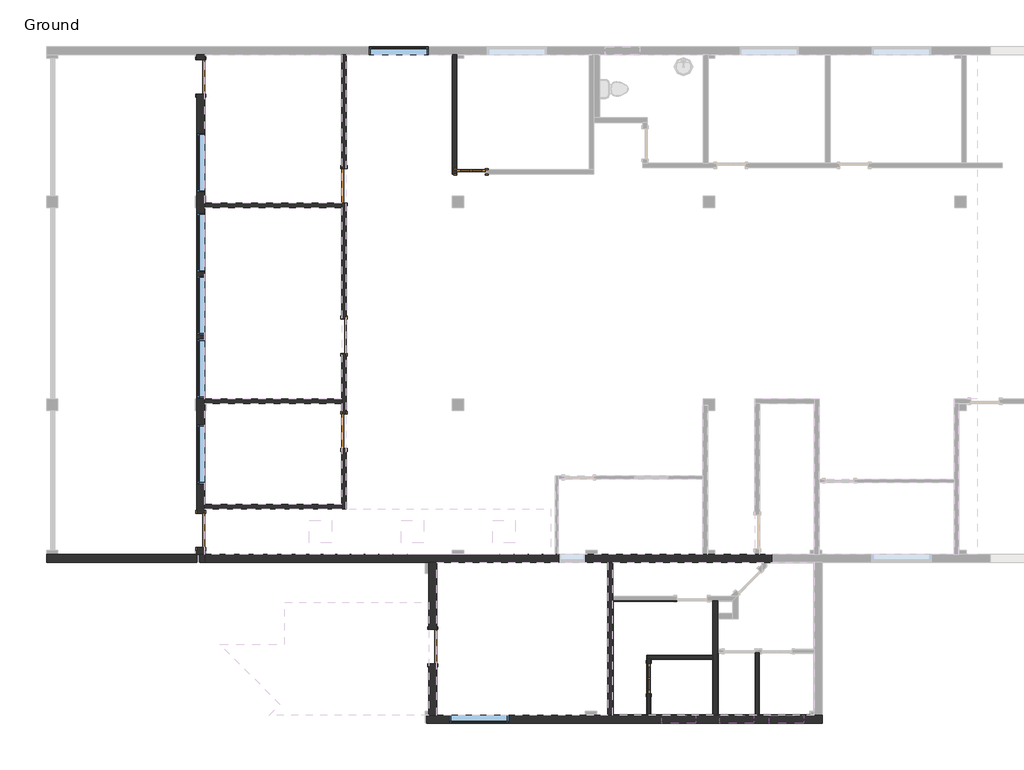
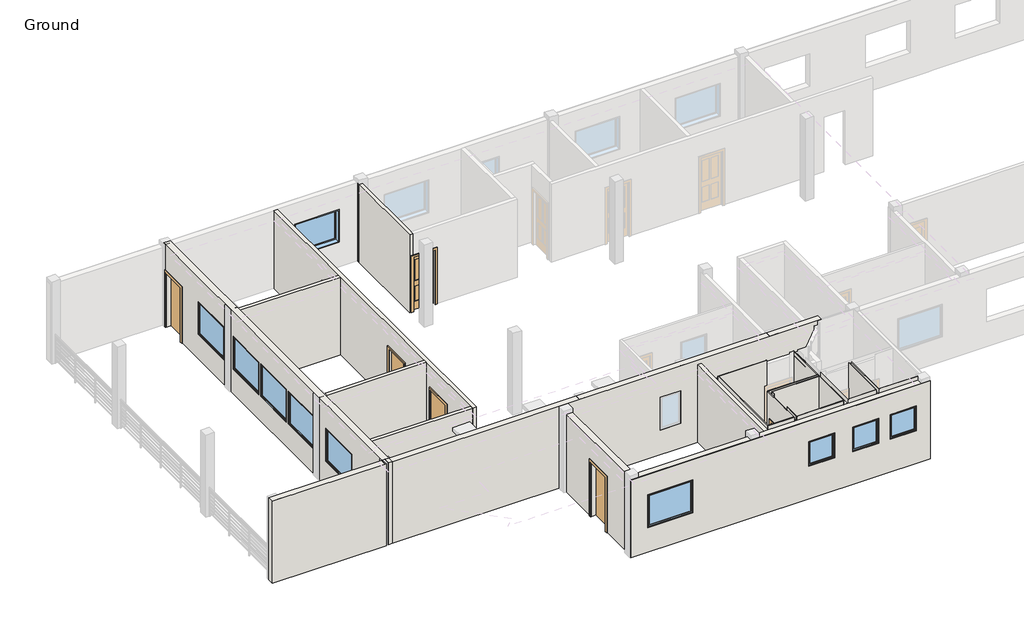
# One storey, part 1 of 4: 32 walls, 10 windows, 8 doors.
"""IFC4 building model written with IfcOpenShell, lengths in millimetres."""

from ifc_helpers import new_model, si_unit, frame, origin, origin_with_axes, place, context, project, spatial, polyline, outline, extrude, faceted_brep, transform, mapped, element, save
from components import door_43f271b1, door_0f3f7c0c, door_dce19e30, door_55521cee, door_bfc1a142, door_456b505c, fixed_3_x_3_w3_42a4cb5f, window_a0bf6c86

model = new_model("IFC4")

# Units and contexts
model_context = context("Model", 3, world=origin())
ifc_project = project(units=[si_unit("LENGTHUNIT", "METRE", prefix="MILLI")], contexts=[model_context])

# Site, building, storey
site = spatial("IfcSite", under=ifc_project)
building = spatial("IfcBuilding", under=site)
storey = spatial("IfcBuildingStorey", under=building, Name="Ground", Elevation=0.0)

# Doors
placement = place(None, origin())
door_shape = door_43f271b1(model_context)
element("IfcDoor", 1, ObjectType="Single-Flush : 36\" x 80\" - D1", at=placement, inside=storey, context=model_context, shape_type="MappedRepresentation", body=[
    mapped(door_shape, transform((-36104.115324, 12255.47279, 0.0), x_axis=(0.0, 1.0, 0.0), y_axis=(-1.0, 0.0, 0.0), z_axis=(0.0, 0.0, 1.0))),
])
element("IfcDoor", 2, ObjectType="Single-Flush : 36\" x 80\" - D1", at=placement, inside=storey, context=model_context, shape_type="MappedRepresentation", body=[
    mapped(door_shape, transform((-36104.115324, 14793.88529, 0.0), x_axis=(0.0, -1.0, 0.0), y_axis=(1.0, 0.0, 0.0), z_axis=(0.0, 0.0, 1.0))),
])
door_2_shape = door_0f3f7c0c(model_context)
element("IfcDoor", 3, ObjectType="Single-Flush : 36\" x 80\" - D1", at=placement, inside=storey, context=model_context, shape_type="MappedRepresentation", body=[
    mapped(door_2_shape, transform((-36104.115324, 18807.08529, 0.0), x_axis=(0.0, -1.0, 0.0), y_axis=(1.0, 0.0, 0.0), z_axis=(0.0, 0.0, 1.0))),
])
door_3_shape = door_dce19e30(model_context)
element("IfcDoor", 4, ObjectType="Single-Flush : 36\" x 80\" - D1", at=placement, inside=storey, context=model_context, shape_type="MappedRepresentation", body=[
    mapped(door_3_shape, transform((-39928.402824, 9610.9623734, 0.0), x_axis=(0.0, -1.0, 0.0), y_axis=(1.0, 0.0, 0.0), z_axis=(0.0, 0.0, 1.0))),
])
element("IfcDoor", 5, ObjectType="Single-Flush : 36\" x 80\" - D1", at=placement, inside=storey, context=model_context, shape_type="MappedRepresentation", body=[
    mapped(door_3_shape, transform((-33741.915324, 6503.96029, 0.0), x_axis=(0.0, -1.0, 0.0), y_axis=(1.0, 0.0, 0.0), z_axis=(0.0, 0.0, 1.0))),
])
door_4_shape = door_55521cee(model_context)
element("IfcDoor", 6, ObjectType="Single-Flush : 36\" x 80\" - D1", at=placement, inside=storey, context=model_context, shape_type="MappedRepresentation", body=[
    mapped(door_4_shape, transform((-39928.402824, 21710.62279, 0.0), x_axis=(0.0, 1.0, 0.0), y_axis=(-1.0, 0.0, 0.0), z_axis=(0.0, 0.0, 1.0))),
])
door_5_shape = door_bfc1a142(model_context)
element("IfcDoor", 7, ObjectType="Single-Glass 3 : 30\" x 80\" - D3", at=placement, inside=storey, context=model_context, shape_type="MappedRepresentation", body=[
    mapped(door_5_shape, transform((-32717.977824, 19180.14779, 0.0), x_axis=(-1.0, 0.0, 0.0), y_axis=(0.0, -1.0, 0.0), z_axis=(0.0, 0.0, 1.0))),
])
door_6_shape = door_456b505c(model_context)
element("IfcDoor", 8, ObjectType="Single-Glass 3 : 32\" x 80\" - D2", at=placement, inside=storey, context=model_context, shape_type="MappedRepresentation", body=[
    mapped(door_6_shape, transform((-27979.290324, 5653.06029, 0.0), x_axis=(0.0, 1.0, 0.0), y_axis=(-1.0, 0.0, 0.0), z_axis=(0.0, 0.0, 1.0))),
])

# Walls
element("IfcWall", 9, ObjectType="0.5\" wall tiles-4\" x 6\"", at=placement, inside=storey, context=model_context, shape_type="Brep", body=[
    faceted_brep([(-27229.812848, 7724.74779, 0.0), (-28941.315324, 7724.74779, 0.0), (-28941.315324, 7724.74779, 3048.0), (-27229.812848, 7724.74779, 3048.0), (-27229.812848, 7712.04779, 0.0), (-27229.812848, 7712.04779, 3048.0), (-28928.615324, 7712.04779, 3048.0), (-28941.315324, 7712.04779, 3048.0), (-28941.315324, 7712.04779, 0.0), (-28928.615324, 7712.04779, 0.0)], [[[0, 1, 2, 3]], [[4, 5, 6, 7, 8, 9]], [[1, 0, 4, 9, 8]], [[3, 2, 7, 6, 5]], [[0, 3, 5, 4]], [[2, 1, 8, 7]]]),
])
element("IfcWall", 10, ObjectType="0.5\" wall tiles-4\" x 6\"", at=placement, inside=storey, context=model_context, shape_type="Brep", body=[
    faceted_brep([(-28941.315324, 7712.04779, 0.0), (-28941.315324, 4675.16029, 0.0), (-28941.315324, 4675.16029, 3048.0), (-28941.315324, 7712.04779, 3048.0), (-28928.615324, 7712.04779, 0.0), (-28928.615324, 7712.04779, 3048.0), (-28928.615324, 4687.86029, 3048.0), (-28928.615324, 4675.16029, 3048.0), (-28928.615324, 4675.16029, 0.0), (-28928.615324, 4687.86029, 0.0)], [[[0, 1, 2, 3]], [[4, 5, 6, 7, 8, 9]], [[1, 0, 4, 9, 8]], [[3, 2, 7, 6, 5]], [[2, 1, 8, 7]], [[0, 3, 5, 4]]]),
])
element("IfcWall", 11, ObjectType="0.5\" wall tiles-4\" x 6\"", at=placement, inside=storey, context=model_context, shape_type="Brep", body=[
    faceted_brep([(-28928.615324, 4675.16029, 0.0), (-28018.977824, 4675.16029, 0.0), (-28018.977824, 4675.16029, 3048.0), (-28928.615324, 4675.16029, 3048.0), (-28928.615324, 4687.86029, 0.0), (-28928.615324, 4687.86029, 3048.0), (-28031.677824, 4687.86029, 3048.0), (-28018.977824, 4687.86029, 3048.0), (-28018.977824, 4687.86029, 0.0), (-28031.677824, 4687.86029, 0.0)], [[[0, 1, 2, 3]], [[4, 5, 6, 7, 8, 9]], [[1, 0, 4, 9, 8]], [[3, 2, 7, 6, 5]], [[2, 1, 8, 7]], [[0, 3, 5, 4]]]),
])
element("IfcWall", 12, ObjectType="0.5\" wall tiles-4\" x 6\"", at=placement, inside=storey, context=model_context, shape_type="Brep", body=[
    faceted_brep([(-28018.977824, 4687.86029, 0.0), (-28018.977824, 6265.83529, 0.0), (-28018.977824, 6278.53529, 0.0), (-28018.977824, 6278.53529, 3048.0), (-28018.977824, 6265.83529, 3048.0), (-28018.977824, 4687.86029, 3048.0), (-28031.677824, 4687.86029, 0.0), (-28031.677824, 4687.86029, 3048.0), (-28031.677824, 6278.53529, 3048.0), (-28031.677824, 6278.53529, 0.0)], [[[0, 1, 2, 3, 4, 5]], [[6, 7, 8, 9]], [[2, 1, 0, 6, 9]], [[5, 4, 3, 8, 7]], [[3, 2, 9, 8]], [[0, 5, 7, 6]]]),
])
element("IfcWall", 13, ObjectType="0.5\" wall tiles-4\" x 6\"", at=placement, inside=storey, context=model_context, shape_type="Brep", body=[
    faceted_brep([(-28018.977824, 6265.83529, 0.0), (-26263.202824, 6265.83529, 0.0), (-26263.202824, 6265.83529, 3048.0), (-28018.977824, 6265.83529, 3048.0), (-28018.977824, 6278.53529, 0.0), (-28018.977824, 6278.53529, 3048.0), (-26275.902824, 6278.53529, 3048.0), (-26263.202824, 6278.53529, 3048.0), (-26263.202824, 6278.53529, 0.0), (-26275.902824, 6278.53529, 0.0)], [[[0, 1, 2, 3]], [[4, 5, 6, 7, 8, 9]], [[1, 0, 4, 9, 8]], [[3, 2, 7, 6, 5]], [[2, 1, 8, 7]], [[0, 3, 5, 4]]]),
])
element("IfcWall", 14, ObjectType="0.5\" wall tiles-4\" x 6\"", at=placement, inside=storey, context=model_context, shape_type="Brep", body=[
    faceted_brep([(-26263.202824, 6278.53529, 0.0), (-26263.202824, 7724.74779, 0.0), (-26263.202824, 7724.74779, 3048.0), (-26263.202824, 6278.53529, 3048.0), (-26275.902824, 6278.53529, 0.0), (-26275.902824, 6278.53529, 3048.0), (-26275.902824, 7712.04779, 3048.0), (-26275.902824, 7724.74779, 3048.0), (-26275.902824, 7724.74779, 0.0), (-26275.902824, 7712.04779, 0.0)], [[[0, 1, 2, 3]], [[4, 5, 6, 7, 8, 9]], [[1, 0, 4, 9, 8]], [[3, 2, 7, 6, 5]], [[2, 1, 8, 7]], [[0, 3, 5, 4]]]),
])
element("IfcWall", 15, ObjectType="0.5\" wall tiles-4\" x 6\"", at=placement, inside=storey, context=model_context, shape_type="Brep", body=[
    faceted_brep([(-26263.202824, 6186.46029, 0.0), (-27939.602824, 6186.46029, 0.0), (-27939.602824, 6186.46029, 3048.0), (-26263.202824, 6186.46029, 3048.0), (-26263.202824, 6173.76029, 0.0), (-26263.202824, 6173.76029, 3048.0), (-26275.902824, 6173.76029, 3048.0), (-27926.902824, 6173.76029, 3048.0), (-27939.602824, 6173.76029, 3048.0), (-27939.602824, 6173.76029, 0.0), (-27926.902824, 6173.76029, 0.0), (-26275.902824, 6173.76029, 0.0)], [[[0, 1, 2, 3]], [[4, 5, 6, 7, 8, 9, 10, 11]], [[1, 0, 4, 11, 10, 9]], [[3, 2, 8, 7, 6, 5]], [[2, 1, 9, 8]], [[0, 3, 5, 4]]]),
])
element("IfcWall", 16, ObjectType="0.5\" wall tiles-4\" x 6\"", at=placement, inside=storey, context=model_context, shape_type="SweptSolid", body=[
    extrude(outline(polyline([(-27939.602824, 6059.46029), (-27939.602824, 6173.76029), (-27926.902824, 6173.76029), (-27926.902824, 6059.46029), (-27939.602824, 6059.46029)])), origin_with_axes(), (0.0, 0.0, 1.0), 3048.0),
])
element("IfcWall", 17, ObjectType="0.5\" wall tiles-4\" x 6\"", at=placement, inside=storey, context=model_context, shape_type="Brep", body=[
    faceted_brep([(-26263.202824, 4675.16029, 0.0), (-26263.202824, 6173.76029, 0.0), (-26263.202824, 6173.76029, 3048.0), (-26263.202824, 4675.16029, 3048.0), (-26275.902824, 4675.16029, 0.0), (-26275.902824, 4675.16029, 3048.0), (-26275.902824, 4687.86029, 3048.0), (-26275.902824, 6173.76029, 3048.0), (-26275.902824, 6173.76029, 0.0), (-26275.902824, 4687.86029, 0.0)], [[[0, 1, 2, 3]], [[4, 5, 6, 7, 8, 9]], [[1, 0, 4, 9, 8]], [[3, 2, 7, 6, 5]], [[0, 3, 5, 4]], [[2, 1, 8, 7]]]),
])
element("IfcWall", 18, ObjectType="0.5\" wall tiles-4\" x 6\"", at=placement, inside=storey, context=model_context, shape_type="Brep", body=[
    faceted_brep([(-27939.602824, 5245.2502661, 0.0), (-27939.602824, 4675.16029, 0.0), (-27939.602824, 4675.16029, 3048.0), (-27939.602824, 5245.2502661, 3048.0), (-27926.902824, 5245.2502661, 0.0), (-27926.902824, 5245.2502661, 3048.0), (-27926.902824, 4687.86029, 3048.0), (-27926.902824, 4675.16029, 3048.0), (-27926.902824, 4675.16029, 0.0), (-27926.902824, 4687.86029, 0.0)], [[[0, 1, 2, 3]], [[4, 5, 6, 7, 8, 9]], [[1, 0, 4, 9, 8]], [[3, 2, 7, 6, 5]], [[0, 3, 5, 4]], [[2, 1, 8, 7]]]),
])
element("IfcWall", 19, ObjectType="0.5\" wall tiles-4\" x 6\"", at=placement, inside=storey, context=model_context, shape_type="SweptSolid", body=[
    extrude(outline(polyline([(-26275.902824, 4675.16029), (-27926.902824, 4675.16029), (-27926.902824, 4687.86029), (-26275.902824, 4687.86029), (-26275.902824, 4675.16029)])), origin_with_axes(), (0.0, 0.0, 1.0), 3048.0),
])
element("IfcWall", 20, ObjectType="0.5\" wall tiles-4\" x 6\"", at=placement, inside=storey, context=model_context, shape_type="Brep", body=[
    faceted_brep([(-26136.202824, 6326.16029, 0.0), (-26136.202824, 4675.16029, 0.0), (-26136.202824, 4675.16029, 3048.0), (-26136.202824, 6326.16029, 3048.0), (-26123.502824, 6326.16029, 0.0), (-26123.502824, 6326.16029, 3048.0), (-26123.502824, 4687.86029, 3048.0), (-26123.502824, 4675.16029, 3048.0), (-26123.502824, 4675.16029, 0.0), (-26123.502824, 4687.86029, 0.0)], [[[0, 1, 2, 3]], [[4, 5, 6, 7, 8, 9]], [[1, 0, 4, 9, 8]], [[3, 2, 7, 6, 5]], [[2, 1, 8, 7]], [[0, 3, 5, 4]]]),
])
element("IfcWall", 21, ObjectType="0.5\" wall tiles-4\" x 6\"", at=placement, inside=storey, context=model_context, shape_type="Brep", body=[
    faceted_brep([(-26123.502824, 4675.16029, 0.0), (-25123.377824, 4675.16029, 0.0), (-25123.377824, 4675.16029, 3048.0), (-26123.502824, 4675.16029, 3048.0), (-26123.502824, 4687.86029, 0.0), (-26123.502824, 4687.86029, 3048.0), (-25136.077824, 4687.86029, 3048.0), (-25123.377824, 4687.86029, 3048.0), (-25123.377824, 4687.86029, 0.0), (-25136.077824, 4687.86029, 0.0)], [[[0, 1, 2, 3]], [[4, 5, 6, 7, 8, 9]], [[1, 0, 4, 9, 8]], [[3, 2, 7, 6, 5]], [[2, 1, 8, 7]], [[0, 3, 5, 4]]]),
])
element("IfcWall", 22, ObjectType="0.5\" wall tiles-4\" x 6\"", at=placement, inside=storey, context=model_context, shape_type="SweptSolid", body=[
    extrude(outline(polyline([(-25123.377824, 6337.27279), (-25123.377824, 4687.86029), (-25136.077824, 4687.86029), (-25136.077824, 6337.27279), (-25123.377824, 6337.27279)])), origin_with_axes(), (0.0, 0.0, 1.0), 3048.0),
])
element("IfcWall", 23, ObjectType="0.5\" wall tiles-4\" x 6\"", at=placement, inside=storey, context=model_context, shape_type="Brep", body=[
    faceted_brep([(-25044.002824, 6337.27279, 0.0), (-25044.002824, 4675.16029, 0.0), (-25044.002824, 4675.16029, 3048.0), (-25044.002824, 6337.27279, 3048.0), (-25031.302824, 6337.27279, 0.0), (-25031.302824, 6337.27279, 3048.0), (-25031.302824, 4687.86029, 3048.0), (-25031.302824, 4675.16029, 3048.0), (-25031.302824, 4675.16029, 0.0), (-25031.302824, 4687.86029, 0.0)], [[[0, 1, 2, 3]], [[4, 5, 6, 7, 8, 9]], [[1, 0, 4, 9, 8]], [[3, 2, 7, 6, 5]], [[0, 3, 5, 4]], [[2, 1, 8, 7]]]),
])
element("IfcWall", 24, ObjectType="0.5\" wall tiles-4\" x 6\"", at=placement, inside=storey, context=model_context, shape_type="Brep", body=[
    faceted_brep([(-25031.302824, 4675.16029, 0.0), (-23664.465324, 4675.16029, 0.0), (-23664.465324, 4675.16029, 3048.0), (-25031.302824, 4675.16029, 3048.0), (-25031.302824, 4687.86029, 0.0), (-25031.302824, 4687.86029, 3048.0), (-23677.165324, 4687.86029, 3048.0), (-23664.465324, 4687.86029, 3048.0), (-23664.465324, 4687.86029, 0.0), (-23677.165324, 4687.86029, 0.0)], [[[0, 1, 2, 3]], [[4, 5, 6, 7, 8, 9]], [[1, 0, 4, 9, 8]], [[3, 2, 7, 6, 5]], [[2, 1, 8, 7]], [[0, 3, 5, 4]]]),
])
element("IfcWall", 25, ObjectType="Generic - 8\" Masonry existing", at=placement, inside=storey, context=model_context, shape_type="Brep", body=[
    faceted_brep([(-40037.940324, 8972.52279, 3048.0), (-40037.940324, 22307.52279, 3048.0), (-40037.940324, 22307.52279, 0.0), (-40037.940324, 22167.82279, 0.0), (-40037.940324, 22167.82279, 2032.0), (-40037.940324, 21253.42279, 2032.0), (-40037.940324, 21253.42279, 0.0), (-40037.940324, 10068.1623734, 0.0), (-40037.940324, 10068.1623734, 2032.0), (-40037.940324, 9153.7623734, 2032.0), (-40037.940324, 9153.7623734, 0.0), (-40037.940324, 8972.52279, 0.0), (-40037.940324, 12426.92279, 914.4), (-40037.940324, 12426.92279, 2133.6), (-40037.940324, 10852.12279, 2133.6), (-40037.940324, 10852.12279, 914.4), (-40037.940324, 14716.09779, 2133.6), (-40037.940324, 13141.29779, 2133.6), (-40037.940324, 13141.29779, 914.4), (-40037.940324, 14716.09779, 914.4), (-40037.940324, 16402.02279, 2133.6), (-40037.940324, 14827.22279, 2133.6), (-40037.940324, 14827.22279, 914.4), (-40037.940324, 16402.02279, 914.4), (-40037.940324, 18078.42279, 2133.6), (-40037.940324, 16503.62279, 2133.6), (-40037.940324, 16503.62279, 914.4), (-40037.940324, 18078.42279, 914.4), (-40037.940324, 20212.02279, 2133.6), (-40037.940324, 18637.22279, 2133.6), (-40037.940324, 18637.22279, 914.4), (-40037.940324, 20212.02279, 914.4), (-39818.865324, 22307.52279, 3048.0), (-39818.865324, 8972.52279, 3048.0), (-39818.865324, 8972.52279, 0.0), (-39818.865324, 9153.7623734, 0.0), (-39818.865324, 9153.7623734, 2032.0), (-39818.865324, 10068.1623734, 2032.0), (-39818.865324, 10068.1623734, 0.0), (-39818.865324, 10181.1394567, 0.0), (-39818.865324, 10304.9644567, 0.0), (-39818.865324, 12993.66029, 0.0), (-39818.865324, 13117.48529, 0.0), (-39818.865324, 18226.06029, 0.0), (-39818.865324, 18349.88529, 0.0), (-39818.865324, 21253.42279, 0.0), (-39818.865324, 21253.42279, 2032.0), (-39818.865324, 22167.82279, 2032.0), (-39818.865324, 22167.82279, 0.0), (-39818.865324, 22307.52279, 0.0), (-39818.865324, 12426.92279, 2133.6), (-39818.865324, 12426.92279, 914.4), (-39818.865324, 10852.12279, 914.4), (-39818.865324, 10852.12279, 2133.6), (-39818.865324, 14716.09779, 2133.6), (-39818.865324, 14716.09779, 914.4), (-39818.865324, 13141.29779, 914.4), (-39818.865324, 13141.29779, 2133.6), (-39818.865324, 16402.02279, 2133.6), (-39818.865324, 16402.02279, 914.4), (-39818.865324, 14827.22279, 914.4), (-39818.865324, 14827.22279, 2133.6), (-39818.865324, 18078.42279, 2133.6), (-39818.865324, 18078.42279, 914.4), (-39818.865324, 16503.62279, 914.4), (-39818.865324, 16503.62279, 2133.6), (-39818.865324, 20212.02279, 2133.6), (-39818.865324, 20212.02279, 914.4), (-39818.865324, 18637.22279, 914.4), (-39818.865324, 18637.22279, 2133.6), (-39961.740324, 8972.52279, 0.0), (-39961.740324, 8972.52279, 3048.0)], [[[0, 1, 2, 3, 4, 5, 6, 7, 8, 9, 10, 11], [12, 13, 14, 15], [16, 17, 18, 19], [20, 21, 22, 23], [24, 25, 26, 27], [28, 29, 30, 31]], [[32, 33, 34, 35, 36, 37, 38, 39, 40, 41, 42, 43, 44, 45, 46, 47, 48, 49], [50, 51, 52, 53], [54, 55, 56, 57], [58, 59, 60, 61], [62, 63, 64, 65], [66, 67, 68, 69]], [[34, 70, 11, 10, 35]], [[2, 49, 48, 3]], [[38, 7, 6, 45, 44, 43, 42, 41, 40, 39]], [[1, 0, 71, 33, 32]], [[0, 11, 70, 34, 33, 71]], [[2, 1, 32, 49]], [[36, 35, 10, 9]], [[37, 36, 9, 8]], [[38, 37, 8, 7]], [[4, 3, 48, 47]], [[5, 4, 47, 46]], [[6, 5, 46, 45]], [[50, 13, 12, 51]], [[51, 12, 15, 52]], [[14, 53, 52, 15]], [[13, 50, 53, 14]], [[55, 54, 16, 19]], [[56, 55, 19, 18]], [[57, 56, 18, 17]], [[54, 57, 17, 16]], [[59, 58, 20, 23]], [[60, 59, 23, 22]], [[61, 60, 22, 21]], [[58, 61, 21, 20]], [[63, 62, 24, 27]], [[64, 63, 27, 26]], [[65, 64, 26, 25]], [[62, 65, 25, 24]], [[67, 66, 28, 31]], [[68, 67, 31, 30]], [[69, 68, 30, 29]], [[66, 69, 29, 28]]]),
])
element("IfcWall", 26, ObjectType="Generic - 8\" Masonry existing", at=placement, inside=storey, context=model_context, shape_type="SweptSolid", body=[
    extrude(outline(polyline([(-40037.940324, 8753.44779), (-44043.202824, 8753.44779), (-44043.202824, 8972.52279), (-40037.940324, 8972.52279), (-40037.940324, 8753.44779)])), origin_with_axes(), (0.0, 0.0, 1.0), 3048.0),
])
element("IfcWall", 27, ObjectType="Generic - 8\" Masonry existing", at=placement, inside=storey, context=model_context, shape_type="SweptSolid", body=[
    extrude(outline(polyline([(6046.76029, 2032.0), (6046.76029, 0.0), (4675.16029, 0.0), (4675.16029, 2895.6), (8753.44779, 2895.6), (8753.44779, 0.0), (6961.16029, 0.0), (6961.16029, 2032.0), (6046.76029, 2032.0)])), frame((-33851.452824, 0.0, 0.0), z_axis=(1.0, 0.0, 0.0), x_axis=(0.0, 1.0, 0.0)), (0.0, 0.0, 1.0), 219.075),
])
element("IfcWall", 28, ObjectType="Generic - 8\" Masonry existing", at=placement, inside=storey, context=model_context, shape_type="Brep", body=[
    faceted_brep([(-33900.8582358, 4456.08529, 0.0), (-23346.965324, 4456.08529, 0.0), (-23346.965324, 4456.08529, 2895.6), (-23359.665324, 4456.08529, 2895.6), (-33900.8582358, 4456.08529, 2895.6), (-27634.802824, 4456.08529, 2133.6), (-26720.402824, 4456.08529, 2133.6), (-26720.402824, 4456.08529, 1219.2), (-27634.802824, 4456.08529, 1219.2), (-26086.990324, 4456.08529, 2133.6), (-25172.590324, 4456.08529, 2133.6), (-25172.590324, 4456.08529, 1219.2), (-26086.990324, 4456.08529, 1219.2), (-24762.221574, 4456.08529, 2133.6), (-23847.821574, 4456.08529, 2133.6), (-23847.821574, 4456.08529, 1219.2), (-24762.221574, 4456.08529, 1219.2), (-33292.652824, 4456.08529, 2133.6), (-31717.852824, 4456.08529, 2133.6), (-31717.852824, 4456.08529, 914.4), (-33292.652824, 4456.08529, 914.4), (-33900.8582358, 4675.16029, 0.0), (-33900.8582358, 4675.16029, 2895.6), (-33851.452824, 4675.16029, 2895.6), (-33632.377824, 4675.16029, 2895.6), (-29065.140324, 4675.16029, 2895.6), (-28941.315324, 4675.16029, 2895.6), (-28018.977824, 4675.16029, 2895.6), (-27939.602824, 4675.16029, 2895.6), (-26263.202824, 4675.16029, 2895.6), (-26136.202824, 4675.16029, 2895.6), (-25123.377824, 4675.16029, 2895.6), (-25044.002824, 4675.16029, 2895.6), (-23566.040324, 4675.16029, 2895.6), (-23359.665324, 4675.16029, 2895.6), (-23346.965324, 4675.16029, 2895.6), (-23346.965324, 4675.16029, 0.0), (-23566.040324, 4675.16029, 0.0), (-25044.002824, 4675.16029, 0.0), (-25123.377824, 4675.16029, 0.0), (-26136.202824, 4675.16029, 0.0), (-26263.202824, 4675.16029, 0.0), (-27939.602824, 4675.16029, 0.0), (-28018.977824, 4675.16029, 0.0), (-28941.315324, 4675.16029, 0.0), (-29065.140324, 4675.16029, 0.0), (-33632.377824, 4675.16029, 0.0), (-33851.452824, 4675.16029, 0.0), (-27634.802824, 4675.16029, 2133.6), (-27634.802824, 4675.16029, 1219.2), (-26720.402824, 4675.16029, 1219.2), (-26720.402824, 4675.16029, 2133.6), (-26086.990324, 4675.16029, 2133.6), (-26086.990324, 4675.16029, 1219.2), (-25172.590324, 4675.16029, 1219.2), (-25172.590324, 4675.16029, 2133.6), (-24762.221574, 4675.16029, 2133.6), (-24762.221574, 4675.16029, 1219.2), (-23847.821574, 4675.16029, 1219.2), (-23847.821574, 4675.16029, 2133.6), (-33292.652824, 4675.16029, 2133.6), (-33292.652824, 4675.16029, 914.4), (-31717.852824, 4675.16029, 914.4), (-31717.852824, 4675.16029, 2133.6), (-33900.8582358, 4468.78529, 2895.6), (-23346.965324, 4468.78529, 2895.6), (-23359.665324, 4468.78529, 2895.6)], [[[0, 1, 2, 3, 4], [5, 6, 7, 8], [9, 10, 11, 12], [13, 14, 15, 16], [17, 18, 19, 20]], [[21, 22, 23, 24, 25, 26, 27, 28, 29, 30, 31, 32, 33, 34, 35, 36, 37, 38, 39, 40, 41, 42, 43, 44, 45, 46, 47], [48, 49, 50, 51], [52, 53, 54, 55], [56, 57, 58, 59], [60, 61, 62, 63]], [[1, 0, 21, 47, 46, 45, 44, 43, 42, 41, 40, 39, 38, 37, 36]], [[0, 4, 64, 22, 21]], [[2, 1, 36, 35, 65]], [[4, 3, 66, 64]], [[65, 35, 34, 66]], [[3, 2, 65, 66]], [[66, 34, 33, 32, 31, 30, 29, 28, 27, 26, 25, 24, 23, 22, 64]], [[49, 48, 5, 8]], [[50, 49, 8, 7]], [[51, 50, 7, 6]], [[48, 51, 6, 5]], [[53, 52, 9, 12]], [[54, 53, 12, 11]], [[55, 54, 11, 10]], [[52, 55, 10, 9]], [[57, 56, 13, 16]], [[58, 57, 16, 15]], [[59, 58, 15, 14]], [[56, 59, 14, 13]], [[61, 60, 17, 20]], [[62, 61, 20, 19]], [[63, 62, 19, 18]], [[60, 63, 18, 17]]]),
])
element("IfcWall", 29, ObjectType="Generic - 8\" Masonry existing", at=placement, inside=storey, context=model_context, shape_type="Brep", body=[
    faceted_brep([(-24701.102824, 8753.44779, 3048.0), (-24701.102824, 8753.44779, 2895.6), (-24701.102824, 8753.44779, 0.0), (-24701.102824, 8972.52279, 0.0), (-24701.102824, 8972.52279, 2895.6), (-24701.102824, 8972.52279, 3048.0), (-24836.040324, 8753.44779, 0.0), (-24959.865324, 8753.44779, 0.0), (-28941.315324, 8753.44779, 0.0), (-29065.140324, 8753.44779, 0.0), (-33632.377824, 8753.44779, 0.0), (-33851.452824, 8753.44779, 0.0), (-39818.865324, 8753.44779, 0.0), (-39818.865324, 8972.52279, 0.0), (-30476.427824, 8972.52279, 0.0), (-30397.052824, 8972.52279, 0.0), (-26533.077824, 8972.52279, 0.0), (-26409.252824, 8972.52279, 0.0), (-25144.015324, 8972.52279, 0.0), (-25020.190324, 8972.52279, 0.0), (-39818.865324, 8753.44779, 3048.0), (-39818.865324, 8972.52279, 3048.0), (-30371.652824, 8753.44779, 2133.6), (-29660.452824, 8753.44779, 2133.6), (-29660.452824, 8753.44779, 914.4), (-30371.652824, 8753.44779, 914.4), (-30371.652824, 8972.52279, 2133.6), (-30371.652824, 8972.52279, 914.4), (-29660.452824, 8972.52279, 914.4), (-29660.452824, 8972.52279, 2133.6)], [[[0, 1, 2, 3, 4, 5]], [[2, 6, 7, 8, 9, 10, 11, 12, 13, 14, 15, 16, 17, 18, 19, 3]], [[20, 0, 5, 21]], [[12, 11, 10, 9, 8, 7, 6, 2, 1, 0, 20], [22, 23, 24, 25]], [[13, 21, 5, 4, 3, 19, 18, 17, 16, 15, 14], [26, 27, 28, 29]], [[12, 20, 21, 13]], [[27, 26, 22, 25]], [[28, 27, 25, 24]], [[29, 28, 24, 23]], [[26, 29, 23, 22]]]),
])
element("IfcWall", 30, ObjectType="Generic - 8\" Masonry existing", at=placement, inside=storey, context=model_context, shape_type="SweptSolid", body=[
    extrude(outline(polyline([(-39818.865324, 8753.44779), (-39961.740324, 8753.44779), (-39961.740324, 8972.52279), (-39818.865324, 8972.52279), (-39818.865324, 8753.44779)])), origin_with_axes(), (0.0, 0.0, 1.0), 3048.0),
])
element("IfcWall", 31, ObjectType="Interior - 3 1/8\" Partition (1-hr)", at=placement, inside=storey, context=model_context, shape_type="SweptSolid", body=[
    extrude(outline(polyline([(-25044.002824, 6338.86029), (-25044.002824, 4675.16029), (-25123.377824, 4675.16029), (-25123.377824, 6338.86029), (-25044.002824, 6338.86029)])), origin_with_axes(), (0.0, 0.0, 1.0), 2895.6),
])
element("IfcWall", 32, ObjectType="Interior - 3 1/8\" Partition (1-hr)", at=placement, inside=storey, context=model_context, shape_type="Brep", body=[
    faceted_brep([(-26263.202824, 6265.83529, 0.0), (-28018.977824, 6265.83529, 0.0), (-28018.977824, 6265.83529, 2895.6), (-26263.202824, 6265.83529, 2895.6), (-26263.202824, 6186.46029, 0.0), (-26263.202824, 6186.46029, 2895.6), (-27939.602824, 6186.46029, 2895.6), (-28018.977824, 6186.46029, 2895.6), (-28018.977824, 6186.46029, 0.0), (-27939.602824, 6186.46029, 0.0)], [[[0, 1, 2, 3]], [[4, 5, 6, 7, 8, 9]], [[1, 0, 4, 9, 8]], [[3, 2, 7, 6, 5]], [[2, 1, 8, 7]], [[0, 3, 5, 4]]]),
])
element("IfcWall", 33, ObjectType="Interior - 3 1/8\" Partition (1-hr)", at=placement, inside=storey, context=model_context, shape_type="SweptSolid", body=[
    extrude(outline(polyline([(4675.16029, 2895.6), (6186.46029, 2895.6), (6186.46029, 0.0), (6059.3362735, 0.0), (6059.3362735, 2032.0), (5246.5362735, 2032.0), (5246.5362735, 0.0), (4675.16029, 0.0), (4675.16029, 2895.6)])), frame((-28018.977824, 0.0, 0.0), z_axis=(1.0, 0.0, 0.0), x_axis=(0.0, 1.0, 0.0)), (0.0, 0.0, 1.0), 79.375),
])
element("IfcWall", 34, ObjectType="Interior - 5 1/2\" Partition (1-hr)", at=placement, inside=storey, context=model_context, shape_type="Brep", body=[
    faceted_brep([(-36166.027824, 14336.68529, 2032.0), (-36166.027824, 14336.68529, 0.0), (-36166.027824, 13117.48529, 0.0), (-36166.027824, 12993.66029, 0.0), (-36166.027824, 12712.67279, 0.0), (-36166.027824, 12712.67279, 2032.0), (-36166.027824, 11798.27279, 2032.0), (-36166.027824, 11798.27279, 0.0), (-36166.027824, 10304.9644567, 0.0), (-36166.027824, 10181.1394567, 0.0), (-36166.027824, 10181.1394567, 2895.6), (-36166.027824, 10304.9644567, 2895.6), (-36166.027824, 12993.66029, 2895.6), (-36166.027824, 13117.48529, 2895.6), (-36166.027824, 18226.06029, 2895.6), (-36166.027824, 18349.88529, 2895.6), (-36166.027824, 22307.52279, 2895.6), (-36166.027824, 22307.52279, 0.0), (-36166.027824, 19264.28529, 0.0), (-36166.027824, 19264.28529, 2032.0), (-36166.027824, 18349.88529, 2032.0), (-36166.027824, 18349.88529, 0.0), (-36166.027824, 18226.06029, 0.0), (-36166.027824, 15251.08529, 0.0), (-36166.027824, 15251.08529, 2032.0), (-36042.202824, 12712.67279, 0.0), (-36042.202824, 14336.68529, 0.0), (-36042.202824, 14336.68529, 2032.0), (-36042.202824, 15251.08529, 2032.0), (-36042.202824, 15251.08529, 0.0), (-36042.202824, 18349.88529, 0.0), (-36042.202824, 18349.88529, 2032.0), (-36042.202824, 19264.28529, 2032.0), (-36042.202824, 19264.28529, 0.0), (-36042.202824, 22307.52279, 0.0), (-36042.202824, 22307.52279, 2895.6), (-36042.202824, 10181.1394567, 2895.6), (-36042.202824, 10181.1394567, 0.0), (-36042.202824, 11798.27279, 0.0), (-36042.202824, 11798.27279, 2032.0), (-36042.202824, 12712.67279, 2032.0)], [[[0, 1, 2, 3, 4, 5, 6, 7, 8, 9, 10, 11, 12, 13, 14, 15, 16, 17, 18, 19, 20, 21, 22, 23, 24]], [[25, 26, 27, 28, 29, 30, 31, 32, 33, 34, 35, 36, 37, 38, 39, 40]], [[4, 3, 2, 1, 26, 25]], [[18, 17, 34, 33]], [[38, 37, 9, 8, 7]], [[23, 22, 21, 30, 29]], [[16, 15, 14, 13, 12, 11, 10, 36, 35]], [[10, 9, 37, 36]], [[17, 16, 35, 34]], [[31, 30, 21, 20]], [[32, 31, 20, 19]], [[33, 32, 19, 18]], [[5, 4, 25, 40]], [[6, 5, 40, 39]], [[7, 6, 39, 38]], [[27, 26, 1, 0]], [[28, 27, 0, 24]], [[29, 28, 24, 23]]]),
])
element("IfcWall", 35, ObjectType="Interior - 5 1/2\" Partition (1-hr)", at=placement, inside=storey, context=model_context, shape_type="Brep", body=[
    faceted_brep([(-39818.865324, 18226.06029, 0.0), (-36166.027824, 18226.06029, 0.0), (-36166.027824, 18226.06029, 2895.6), (-39818.865324, 18226.06029, 2895.6), (-39818.865324, 18349.88529, 0.0), (-39818.865324, 18349.88529, 2895.6), (-36166.027824, 18349.88529, 2895.6), (-36166.027824, 18349.88529, 2032.0), (-36166.027824, 18349.88529, 0.0)], [[[0, 1, 2, 3]], [[4, 5, 6, 7, 8]], [[1, 0, 4, 8]], [[3, 2, 6, 5]], [[2, 1, 8, 7, 6]], [[0, 3, 5, 4]]]),
])
element("IfcWall", 36, ObjectType="Interior - 5 1/2\" Partition (1-hr)", at=placement, inside=storey, context=model_context, shape_type="SweptSolid", body=[
    extrude(outline(polyline([(-36166.027824, 12993.66029), (-39818.865324, 12993.66029), (-39818.865324, 13117.48529), (-36166.027824, 13117.48529), (-36166.027824, 12993.66029)])), origin_with_axes(), (0.0, 0.0, 1.0), 2895.6),
])
element("IfcWall", 37, ObjectType="Interior - 5 1/2\" Partition (1-hr)", at=placement, inside=storey, context=model_context, shape_type="Brep", body=[
    faceted_brep([(-33222.802824, 22307.52279, 0.0), (-33222.802824, 19118.23529, 0.0), (-33222.802824, 19118.23529, 2895.6), (-33222.802824, 22307.52279, 2895.6), (-33098.977824, 22307.52279, 0.0), (-33098.977824, 22307.52279, 2895.6), (-33098.977824, 19242.06029, 2895.6), (-33098.977824, 19118.23529, 2895.6), (-33098.977824, 19118.23529, 2032.0), (-33098.977824, 19118.23529, 0.0)], [[[0, 1, 2, 3]], [[4, 5, 6, 7, 8, 9]], [[1, 0, 4, 9]], [[3, 2, 7, 6, 5]], [[2, 1, 9, 8, 7]], [[0, 3, 5, 4]]]),
])
element("IfcWall", 38, ObjectType="Interior - 5 1/2\" Partition (1-hr)", at=placement, inside=storey, context=model_context, shape_type="Brep", body=[
    faceted_brep([(-29065.140324, 8753.44779, 0.0), (-29065.140324, 4675.16029, 0.0), (-29065.140324, 4675.16029, 2895.6), (-29065.140324, 8753.44779, 2895.6), (-28941.315324, 8753.44779, 0.0), (-28941.315324, 8753.44779, 2895.6), (-28941.315324, 7851.74779, 2895.6), (-28941.315324, 7724.74779, 2895.6), (-28941.315324, 4675.16029, 2895.6), (-28941.315324, 4675.16029, 0.0), (-28941.315324, 7724.74779, 0.0), (-28941.315324, 7851.74779, 0.0)], [[[0, 1, 2, 3]], [[4, 5, 6, 7, 8, 9, 10, 11]], [[1, 0, 4, 11, 10, 9]], [[3, 2, 8, 7, 6, 5]], [[2, 1, 9, 8]], [[0, 3, 5, 4]]]),
])
element("IfcWall", 39, ObjectType="Interior - 5 1/2\" Partition (1-hr)", at=placement, inside=storey, context=model_context, shape_type="SweptSolid", body=[
    extrude(outline(polyline([(-36166.027824, 10181.1394567), (-39818.865324, 10181.1394567), (-39818.865324, 10304.9644567), (-36166.027824, 10304.9644567), (-36166.027824, 10181.1394567)])), origin_with_axes(), (0.0, 0.0, 1.0), 2895.6),
])
element("IfcWall", 40, ObjectType="Interior - 5\" Partition (2-hr)", at=placement, inside=storey, context=model_context, shape_type="Brep", body=[
    faceted_brep([(-26263.202824, 7724.74779, 0.0), (-26263.202824, 6265.83529, 0.0), (-26263.202824, 6186.46029, 0.0), (-26263.202824, 4675.16029, 0.0), (-26263.202824, 4675.16029, 2895.6), (-26263.202824, 6186.46029, 2895.6), (-26263.202824, 6265.83529, 2895.6), (-26263.202824, 7724.74779, 2895.6), (-26136.202824, 7724.74779, 0.0), (-26136.202824, 7724.74779, 2895.6), (-26136.202824, 6418.23529, 2895.6), (-26136.202824, 6338.86029, 2895.6), (-26136.202824, 4675.16029, 2895.6), (-26136.202824, 4675.16029, 0.0), (-26136.202824, 6338.86029, 0.0), (-26136.202824, 6418.23529, 0.0), (-26136.202824, 7242.14779, 0.0), (-26136.202824, 7394.54779, 0.0)], [[[0, 1, 2, 3, 4, 5, 6, 7]], [[8, 9, 10, 11, 12, 13, 14, 15, 16, 17]], [[3, 2, 1, 0, 8, 17, 16, 15, 14, 13]], [[7, 6, 5, 4, 12, 11, 10, 9]], [[4, 3, 13, 12]], [[0, 7, 9, 8]]]),
])

# Windows
fixed_3_x_3_w3_shape = fixed_3_x_3_w3_42a4cb5f(model_context)
element("IfcWindow", 41, ObjectType="Fixed : 3'x 3' - W3", at=placement, inside=storey, context=model_context, shape_type="MappedRepresentation", body=[
    mapped(fixed_3_x_3_w3_shape, transform((-24343.121574, 4565.62279, -304.8), x_axis=(-1.0, 0.0, 0.0), y_axis=(0.0, -1.0, 0.0), z_axis=(0.0, 0.0, 1.0))),
])
element("IfcWindow", 42, ObjectType="Fixed : 3'x 3' - W3", at=placement, inside=storey, context=model_context, shape_type="MappedRepresentation", body=[
    mapped(fixed_3_x_3_w3_shape, transform((-25667.890324, 4565.62279, -304.8), x_axis=(-1.0, 0.0, 0.0), y_axis=(0.0, -1.0, 0.0), z_axis=(0.0, 0.0, 1.0))),
])
element("IfcWindow", 43, ObjectType="Fixed : 3'x 3' - W3", at=placement, inside=storey, context=model_context, shape_type="MappedRepresentation", body=[
    mapped(fixed_3_x_3_w3_shape, transform((-27215.702824, 4565.62279, -304.8), x_axis=(-1.0, 0.0, 0.0), y_axis=(0.0, -1.0, 0.0), z_axis=(0.0, 0.0, 1.0))),
])
window_shape = window_a0bf6c86(model_context)
element("IfcWindow", 44, ObjectType="Fixed : 60\" x 48\" - W1", at=placement, inside=storey, context=model_context, shape_type="MappedRepresentation", body=[
    mapped(window_shape, transform((-34607.102824, 22417.06029, 0.0), x_axis=(1.0, 0.0, 0.0), y_axis=(0.0, 1.0, 0.0), z_axis=(0.0, 0.0, 1.0))),
])
element("IfcWindow", 45, ObjectType="Fixed : 60\" x 48\" - W1", at=placement, inside=storey, context=model_context, shape_type="MappedRepresentation", body=[
    mapped(window_shape, transform((-39928.402824, 19462.72279, 0.0), x_axis=(0.0, 1.0, 0.0), y_axis=(-1.0, 0.0, 0.0), z_axis=(0.0, 0.0, 1.0))),
])
element("IfcWindow", 46, ObjectType="Fixed : 60\" x 48\" - W1", at=placement, inside=storey, context=model_context, shape_type="MappedRepresentation", body=[
    mapped(window_shape, transform((-39928.402824, 17329.12279, 0.0), x_axis=(0.0, 1.0, 0.0), y_axis=(-1.0, 0.0, 0.0), z_axis=(0.0, 0.0, 1.0))),
])
element("IfcWindow", 47, ObjectType="Fixed : 60\" x 48\" - W1", at=placement, inside=storey, context=model_context, shape_type="MappedRepresentation", body=[
    mapped(window_shape, transform((-39928.402824, 15652.72279, 0.0), x_axis=(0.0, 1.0, 0.0), y_axis=(-1.0, 0.0, 0.0), z_axis=(0.0, 0.0, 1.0))),
])
element("IfcWindow", 48, ObjectType="Fixed : 60\" x 48\" - W1", at=placement, inside=storey, context=model_context, shape_type="MappedRepresentation", body=[
    mapped(window_shape, transform((-39928.402824, 13966.79779, 0.0), x_axis=(0.0, 1.0, 0.0), y_axis=(-1.0, 0.0, 0.0), z_axis=(0.0, 0.0, 1.0))),
])
element("IfcWindow", 49, ObjectType="Fixed : 60\" x 48\" - W1", at=placement, inside=storey, context=model_context, shape_type="MappedRepresentation", body=[
    mapped(window_shape, transform((-39928.402824, 11677.62279, 0.0), x_axis=(0.0, 1.0, 0.0), y_axis=(-1.0, 0.0, 0.0), z_axis=(0.0, 0.0, 1.0))),
])
element("IfcWindow", 50, ObjectType="Fixed : 60\" x 48\" - W1", at=placement, inside=storey, context=model_context, shape_type="MappedRepresentation", body=[
    mapped(window_shape, transform((-32543.352824, 4565.62279, 0.0), x_axis=(-1.0, 0.0, 0.0), y_axis=(0.0, -1.0, 0.0), z_axis=(0.0, 0.0, 1.0))),
])

save(model, "model.ifc")
